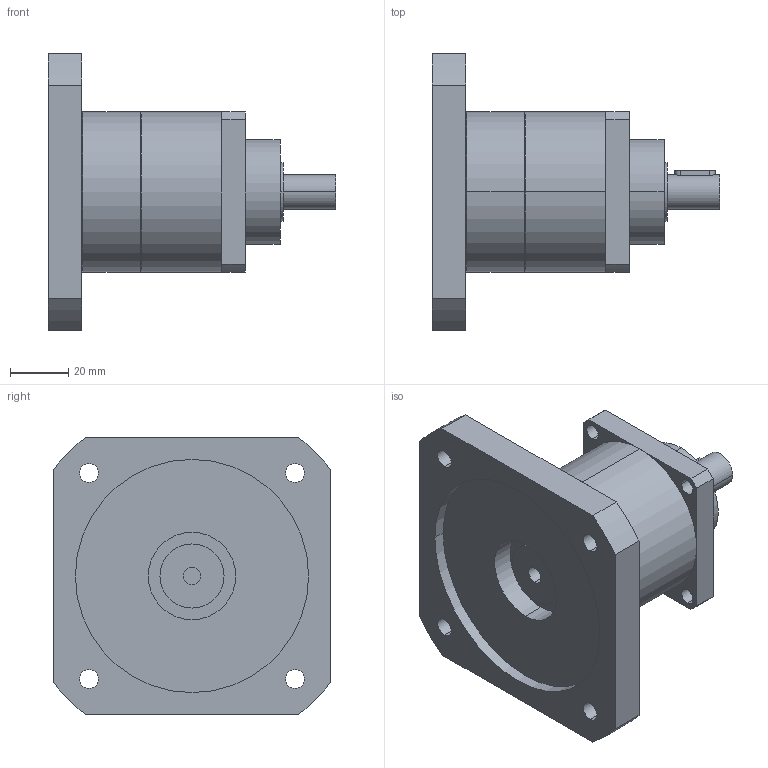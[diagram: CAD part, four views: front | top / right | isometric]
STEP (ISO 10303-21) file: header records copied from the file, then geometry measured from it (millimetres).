
FILE_DESCRIPTION(('CoCreate Modeling STEP Export'),'2;1');
FILE_NAME('GPT55_ig-3-4-5-7-10_12_B5A_6_P07.stp','2014-08-25T14:32:37',(''),(''),'CoCreate Modeling STEP processor for AP214 (Solid Model)','CoCreate Modeling 16.00C 25-Feb-2009 (C) Parametric Technology GmbH','');
FILE_SCHEMA(('AUTOMOTIVE_DESIGN { 1 0 10303 214 1 1 1 1 }'));
Length unit declared in the file: millimetre
Products named in the file (2): GPT55_ig-3-4-5-7-10_12_B5A_6_P07
Assembly tree (1 placements, depth 2):
  GPT55_ig-3-4-5-7-10_12_B5A_6_P07
    GPT55_ig-3-4-5-7-10_12_B5A_6_P07
Bounding box: 98.5 x 95.09 x 95.09 mm (x, y, z)
Volume: 226900.2 mm3; surface area: 38816.6 mm2
Topology: 1 solids, 1 shells, 77 faces, 197 edges, 132 vertices
Faces by surface type: cylinder 46, plane 27, cone 4
Entity records: 2480 total; most frequent: CARTESIAN_POINT 703, ORIENTED_EDGE 394, DIRECTION 318, EDGE_CURVE 197, VERTEX_POINT 132, AXIS2_PLACEMENT_3D 117, EDGE_LOOP 103, VECTOR 84
